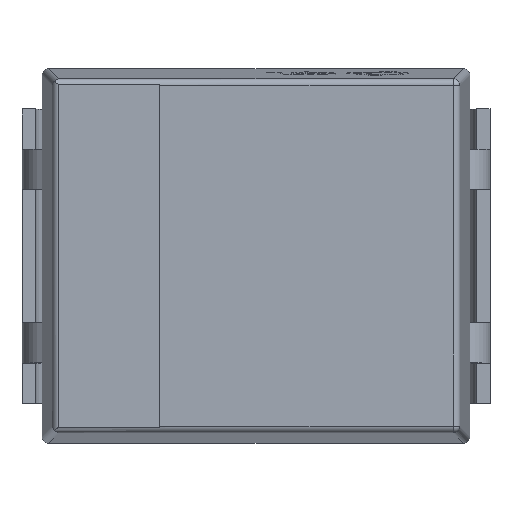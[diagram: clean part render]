
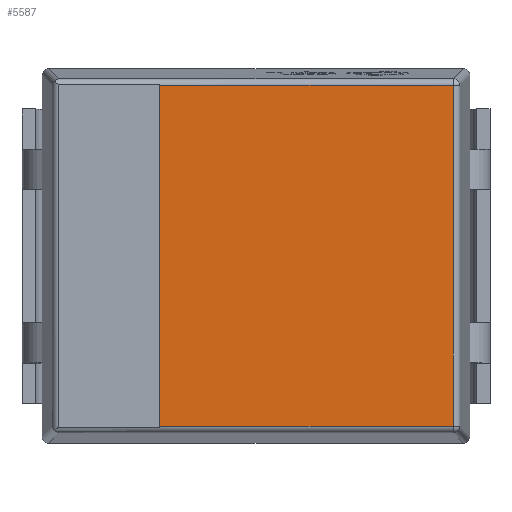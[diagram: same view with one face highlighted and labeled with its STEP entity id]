
A CAD part, top view. The second image highlights one B-rep face of the part: STEP entity #5587.
In plain terms, the highlighted planar face has unit normal (0, 0, 1).
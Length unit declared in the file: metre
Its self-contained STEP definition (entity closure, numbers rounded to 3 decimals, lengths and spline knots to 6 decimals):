
#529=LINE('',#11122,#1050);
#533=LINE('',#11136,#1054);
#543=LINE('',#11173,#1064);
#551=LINE('',#11194,#1072);
#1050=VECTOR('',#8441,1.);
#1054=VECTOR('',#8453,1.);
#1064=VECTOR('',#8495,1.);
#1072=VECTOR('',#8517,1.);
#2508=ORIENTED_EDGE('',*,*,#3430,.F.);
#2509=ORIENTED_EDGE('',*,*,#3393,.T.);
#2510=ORIENTED_EDGE('',*,*,#3419,.T.);
#2511=ORIENTED_EDGE('',*,*,#3400,.T.);
#3393=EDGE_CURVE('',#3953,#3952,#529,.T.);
#3400=EDGE_CURVE('',#3959,#3958,#533,.T.);
#3419=EDGE_CURVE('',#3952,#3959,#543,.T.);
#3430=EDGE_CURVE('',#3953,#3958,#551,.T.);
#3952=VERTEX_POINT('',#11121);
#3953=VERTEX_POINT('',#11123);
#3958=VERTEX_POINT('',#11135);
#3959=VERTEX_POINT('',#11137);
#4495=EDGE_LOOP('',(#2508,#2509,#2510,#2511));
#4812=FACE_BOUND('',#4495,.T.);
#5007=PLANE('',#7655);
#5587=ADVANCED_FACE('',(#4812),#5007,.T.);
#7655=AXIS2_PLACEMENT_3D('',#11412,#8722,#8723);
#8441=DIRECTION('',(1.,0.,0.));
#8453=DIRECTION('',(-1.,0.,0.));
#8495=DIRECTION('',(0.,1.,0.));
#8517=DIRECTION('',(0.,1.,0.));
#8722=DIRECTION('',(0.,0.,1.));
#8723=DIRECTION('',(1.,0.,0.));
#11121=CARTESIAN_POINT('',(-0.134204,-0.04205,0.0114));
#11122=CARTESIAN_POINT('',(-0.134158,-0.04205,0.0114));
#11123=CARTESIAN_POINT('',(-0.136397,-0.04205,0.0114));
#11135=CARTESIAN_POINT('',(-0.136397,-0.039502,0.0114));
#11136=CARTESIAN_POINT('',(-0.136397,-0.039502,0.0114));
#11137=CARTESIAN_POINT('',(-0.134204,-0.039502,0.0114));
#11173=CARTESIAN_POINT('',(-0.134204,-0.039456,0.0114));
#11194=CARTESIAN_POINT('',(-0.136397,-0.040776,0.0114));
#11412=CARTESIAN_POINT('',(-0.135678,-0.040776,0.0114));
